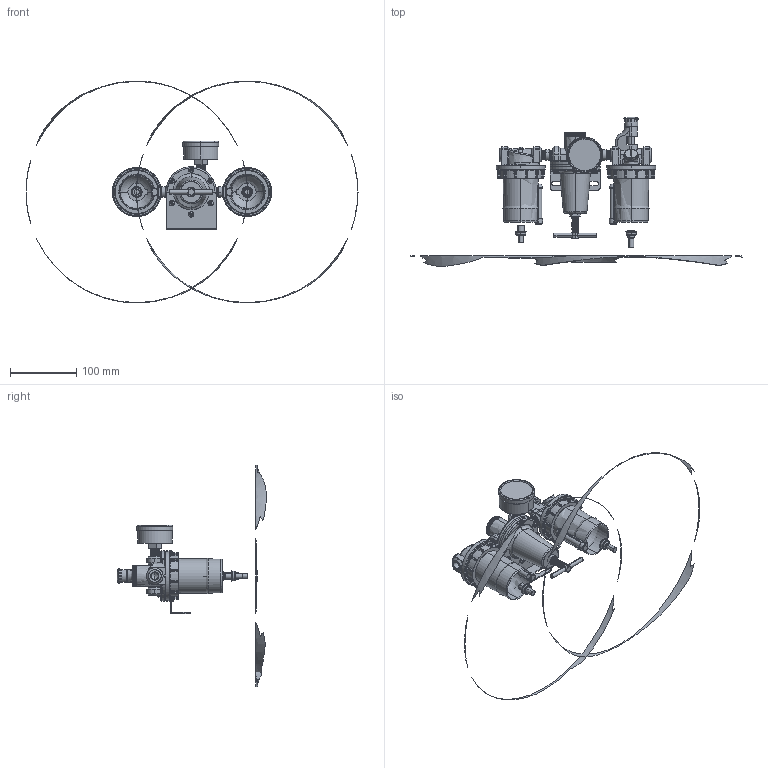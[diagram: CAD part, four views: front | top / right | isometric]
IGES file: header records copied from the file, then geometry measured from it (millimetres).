
Start section: SolidWorks IGES file using analytic representation for surfaces
Global section: file name: D:\Custom\3D繪製\FRL\FRL系列\C628W-02#YB#.IGS; native system: SolidWorks 2014; preprocessor: SolidWorks 2014; author: Chieh_Lu; date: 160115.013255; units: millimetre
Bounding box: 502.19 x 226.4 x 335.68 mm (x, y, z)
Surface area: 173844.1 mm2 (no closed solid volume)
Topology: 0 solids, 0 shells, 1701 faces, 21162 edges, 21131 vertices
Faces by surface type: bspline 912, revolution 789
